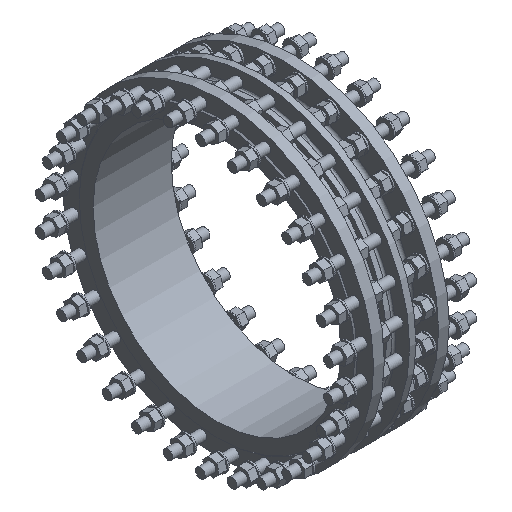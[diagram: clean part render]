
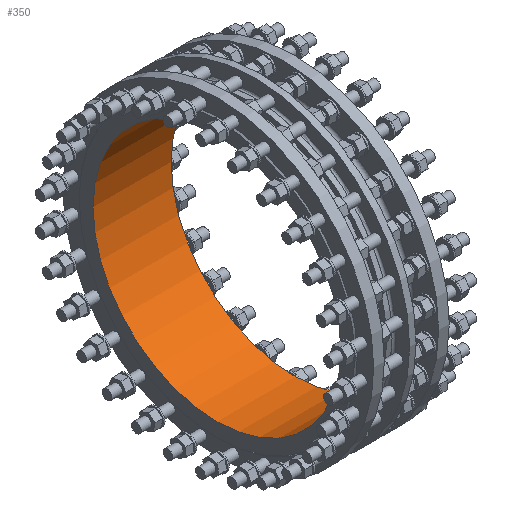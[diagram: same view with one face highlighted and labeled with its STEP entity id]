
A CAD part, isometric view. The second image highlights one B-rep face of the part: STEP entity #350.
In plain terms, the highlighted cylindrical face has radius 500 mm (diameter 1000 mm), a full revolution.
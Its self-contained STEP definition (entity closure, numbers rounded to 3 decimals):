
#350 = ADVANCED_FACE ( 'NONE', ( #40015, #33761 ), #33980, .F. ) ;
#2768 = DIRECTION ( 'NONE',  ( -1., 0., 0. ) ) ;
#3206 = AXIS2_PLACEMENT_3D ( 'NONE', #12391, #36466, #25981 ) ;
#6193 = CARTESIAN_POINT ( 'NONE',  ( -35., 0., -500. ) ) ;
#6578 = AXIS2_PLACEMENT_3D ( 'NONE', #17046, #9691, #29758 ) ;
#8902 = CIRCLE ( 'NONE', #3206, 500. ) ;
#9691 = DIRECTION ( 'NONE',  ( -1., 0., 0. ) ) ;
#12391 = CARTESIAN_POINT ( 'NONE',  ( -35., 0., 0. ) ) ;
#13259 = EDGE_LOOP ( 'NONE', ( #25874 ) ) ;
#13568 = CIRCLE ( 'NONE', #19254, 500. ) ;
#16447 = VERTEX_POINT ( 'NONE', #6193 ) ;
#16589 = DIRECTION ( 'NONE',  ( 0., 0., 1. ) ) ;
#17046 = CARTESIAN_POINT ( 'NONE',  ( 0., 0., 0. ) ) ;
#19254 = AXIS2_PLACEMENT_3D ( 'NONE', #33309, #2768, #16589 ) ;
#24274 = ORIENTED_EDGE ( 'NONE', *, *, #37341, .F. ) ;
#25874 = ORIENTED_EDGE ( 'NONE', *, *, #31523, .F. ) ;
#25981 = DIRECTION ( 'NONE',  ( 0., 0., -1. ) ) ;
#29758 = DIRECTION ( 'NONE',  ( 0., 0., 1. ) ) ;
#31523 = EDGE_CURVE ( 'NONE', #16447, #16447, #8902, .T. ) ;
#32456 = VERTEX_POINT ( 'NONE', #40245 ) ;
#33309 = CARTESIAN_POINT ( 'NONE',  ( 280., 0., 0. ) ) ;
#33761 = FACE_OUTER_BOUND ( 'NONE', #13259, .T. ) ;
#33980 = CYLINDRICAL_SURFACE ( 'NONE', #6578, 500. ) ;
#36466 = DIRECTION ( 'NONE',  ( 1., 0., 0. ) ) ;
#37341 = EDGE_CURVE ( 'NONE', #32456, #32456, #13568, .T. ) ;
#40015 = FACE_OUTER_BOUND ( 'NONE', #43368, .T. ) ;
#40245 = CARTESIAN_POINT ( 'NONE',  ( 280., 0., 500. ) ) ;
#43368 = EDGE_LOOP ( 'NONE', ( #24274 ) ) ;
